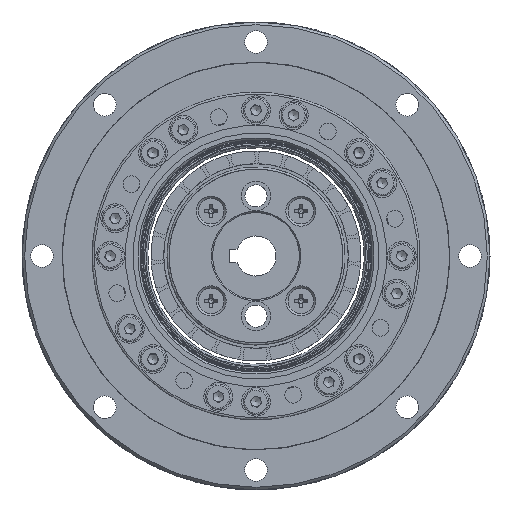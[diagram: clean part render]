
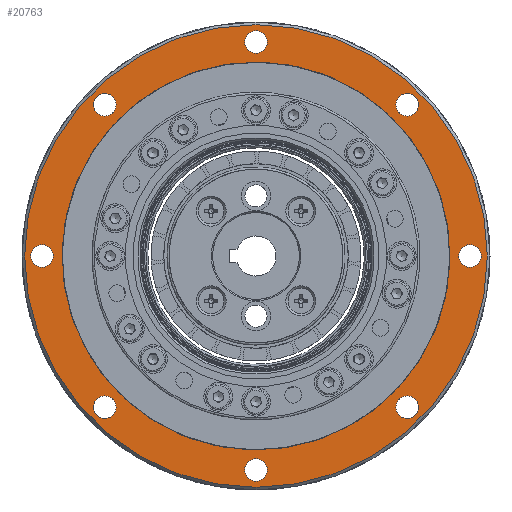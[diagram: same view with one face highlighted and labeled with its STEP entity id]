
A CAD part, left-side view. The second image highlights one B-rep face of the part: STEP entity #20763.
In plain terms, the highlighted planar face has unit normal (-1, 0, 0).
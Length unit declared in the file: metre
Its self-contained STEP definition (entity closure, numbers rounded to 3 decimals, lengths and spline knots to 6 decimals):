
#441 = CARTESIAN_POINT ( 'NONE',  ( -0.006946, 0.032, -0.0017 ) ) ;
#491 = DIRECTION ( 'NONE',  ( -1., 0., 0. ) ) ;
#904 = DIRECTION ( 'NONE',  ( 0., 0., -1. ) ) ;
#1241 = CARTESIAN_POINT ( 'NONE',  ( -0.006946, 0.022627, 0.020927 ) ) ;
#2352 = PLANE ( 'NONE',  #9427 ) ;
#2373 = EDGE_CURVE ( 'NONE', #12624, #12624, #22281, .T. ) ;
#2481 = DIRECTION ( 'NONE',  ( 0., 0., -1. ) ) ;
#3308 = DIRECTION ( 'NONE',  ( -1., 0., 0. ) ) ;
#3554 = ORIENTED_EDGE ( 'NONE', *, *, #22288, .F. ) ;
#3668 = AXIS2_PLACEMENT_3D ( 'NONE', #10719, #13132, #17512 ) ;
#4102 = EDGE_CURVE ( 'NONE', #25165, #25165, #6720, .T. ) ;
#4163 = CIRCLE ( 'NONE', #3668, 0.0017 ) ;
#4204 = DIRECTION ( 'NONE',  ( -1., 0., 0. ) ) ;
#4327 = FACE_BOUND ( 'NONE', #19361, .T. ) ;
#4349 = DIRECTION ( 'NONE',  ( 0., 0., -1. ) ) ;
#4526 = VERTEX_POINT ( 'NONE', #14040 ) ;
#4819 = ORIENTED_EDGE ( 'NONE', *, *, #8194, .F. ) ;
#5113 = EDGE_LOOP ( 'NONE', ( #3554 ) ) ;
#5501 = VERTEX_POINT ( 'NONE', #1241 ) ;
#5537 = CARTESIAN_POINT ( 'NONE',  ( -0.006946, -0.032, -0.0017 ) ) ;
#5642 = DIRECTION ( 'NONE',  ( 0., 0., -1. ) ) ;
#5705 = DIRECTION ( 'NONE',  ( 0., 0., -1. ) ) ;
#6200 = VERTEX_POINT ( 'NONE', #8455 ) ;
#6268 = CARTESIAN_POINT ( 'NONE',  ( -0.006946, -0.022627, 0.022627 ) ) ;
#6720 = CIRCLE ( 'NONE', #27963, 0.0017 ) ;
#6743 = DIRECTION ( 'NONE',  ( 1., 0., 0. ) ) ;
#6914 = DIRECTION ( 'NONE',  ( 1., 0., 0. ) ) ;
#6988 = CARTESIAN_POINT ( 'NONE',  ( -0.006946, 0., 0. ) ) ;
#7875 = EDGE_LOOP ( 'NONE', ( #16269 ) ) ;
#8160 = VERTEX_POINT ( 'NONE', #17534 ) ;
#8194 = EDGE_CURVE ( 'NONE', #8160, #8160, #18939, .T. ) ;
#8212 = DIRECTION ( 'NONE',  ( -1., 0., 0. ) ) ;
#8307 = EDGE_LOOP ( 'NONE', ( #20216 ) ) ;
#8455 = CARTESIAN_POINT ( 'NONE',  ( -0.006946, -0.022627, -0.024327 ) ) ;
#8480 = AXIS2_PLACEMENT_3D ( 'NONE', #9184, #6914, #13722 ) ;
#9015 = FACE_BOUND ( 'NONE', #28865, .T. ) ;
#9184 = CARTESIAN_POINT ( 'NONE',  ( -0.006946, 0., 0. ) ) ;
#9227 = VERTEX_POINT ( 'NONE', #27673 ) ;
#9427 = AXIS2_PLACEMENT_3D ( 'NONE', #27467, #6743, #23806 ) ;
#9760 = ORIENTED_EDGE ( 'NONE', *, *, #17972, .F. ) ;
#10129 = CARTESIAN_POINT ( 'NONE',  ( -0.006946, 0., -0.032 ) ) ;
#10719 = CARTESIAN_POINT ( 'NONE',  ( -0.006946, 0.032, 0. ) ) ;
#11277 = FACE_BOUND ( 'NONE', #8307, .T. ) ;
#11372 = DIRECTION ( 'NONE',  ( 0., 0., -1. ) ) ;
#11422 = EDGE_CURVE ( 'NONE', #9227, #9227, #25293, .T. ) ;
#11576 = FACE_OUTER_BOUND ( 'NONE', #13391, .T. ) ;
#12399 = CIRCLE ( 'NONE', #19155, 0.0017 ) ;
#12509 = VERTEX_POINT ( 'NONE', #441 ) ;
#12624 = VERTEX_POINT ( 'NONE', #5537 ) ;
#12723 = DIRECTION ( 'NONE',  ( -1., 0., 0. ) ) ;
#12961 = CARTESIAN_POINT ( 'NONE',  ( -0.006946, -0.022627, -0.022627 ) ) ;
#13132 = DIRECTION ( 'NONE',  ( -1., 0., 0. ) ) ;
#13391 = EDGE_LOOP ( 'NONE', ( #19607 ) ) ;
#13592 = AXIS2_PLACEMENT_3D ( 'NONE', #21868, #28679, #5705 ) ;
#13722 = DIRECTION ( 'NONE',  ( 0., 0., 1. ) ) ;
#14040 = CARTESIAN_POINT ( 'NONE',  ( -0.006946, 0., -0.0337 ) ) ;
#14240 = DIRECTION ( 'NONE',  ( 0., 0., 1. ) ) ;
#14420 = EDGE_LOOP ( 'NONE', ( #9760 ) ) ;
#14930 = CARTESIAN_POINT ( 'NONE',  ( -0.006946, -0.022627, 0.020927 ) ) ;
#15421 = CARTESIAN_POINT ( 'NONE',  ( -0.006946, 0., 0.0346 ) ) ;
#16269 = ORIENTED_EDGE ( 'NONE', *, *, #21419, .F. ) ;
#16333 = ORIENTED_EDGE ( 'NONE', *, *, #2373, .F. ) ;
#16826 = CARTESIAN_POINT ( 'NONE',  ( -0.006946, 0., 0.032 ) ) ;
#17306 = CIRCLE ( 'NONE', #21652, 0.0017 ) ;
#17512 = DIRECTION ( 'NONE',  ( 0., 0., -1. ) ) ;
#17534 = CARTESIAN_POINT ( 'NONE',  ( -0.006946, 0., 0.029 ) ) ;
#17929 = FACE_BOUND ( 'NONE', #28875, .T. ) ;
#17972 = EDGE_CURVE ( 'NONE', #6200, #6200, #23464, .T. ) ;
#18227 = EDGE_CURVE ( 'NONE', #26909, #26909, #19119, .T. ) ;
#18233 = FACE_BOUND ( 'NONE', #5113, .T. ) ;
#18462 = AXIS2_PLACEMENT_3D ( 'NONE', #6988, #491, #14240 ) ;
#18939 = CIRCLE ( 'NONE', #18462, 0.029 ) ;
#19119 = CIRCLE ( 'NONE', #8480, 0.0346 ) ;
#19155 = AXIS2_PLACEMENT_3D ( 'NONE', #6268, #8212, #26664 ) ;
#19361 = EDGE_LOOP ( 'NONE', ( #29044 ) ) ;
#19607 = ORIENTED_EDGE ( 'NONE', *, *, #18227, .F. ) ;
#20140 = EDGE_CURVE ( 'NONE', #4526, #4526, #26754, .T. ) ;
#20216 = ORIENTED_EDGE ( 'NONE', *, *, #27817, .F. ) ;
#20501 = FACE_BOUND ( 'NONE', #7875, .T. ) ;
#20763 = ADVANCED_FACE ( 'NONE', ( #17929, #11576, #18233, #4327, #11277, #20501, #23072, #22625, #29734, #9015 ), #2352, .F. ) ;
#21419 = EDGE_CURVE ( 'NONE', #12509, #12509, #4163, .T. ) ;
#21539 = AXIS2_PLACEMENT_3D ( 'NONE', #12961, #4204, #4349 ) ;
#21652 = AXIS2_PLACEMENT_3D ( 'NONE', #27735, #29704, #2481 ) ;
#21868 = CARTESIAN_POINT ( 'NONE',  ( -0.006946, -0.032, 0. ) ) ;
#22281 = CIRCLE ( 'NONE', #13592, 0.0017 ) ;
#22288 = EDGE_CURVE ( 'NONE', #23860, #23860, #12399, .T. ) ;
#22462 = CARTESIAN_POINT ( 'NONE',  ( -0.006946, 0., 0.0303 ) ) ;
#22625 = FACE_BOUND ( 'NONE', #23239, .T. ) ;
#22713 = CARTESIAN_POINT ( 'NONE',  ( -0.006946, 0.022627, -0.022627 ) ) ;
#22865 = DIRECTION ( 'NONE',  ( -1., 0., 0. ) ) ;
#23072 = FACE_BOUND ( 'NONE', #28447, .T. ) ;
#23239 = EDGE_LOOP ( 'NONE', ( #29447 ) ) ;
#23464 = CIRCLE ( 'NONE', #21539, 0.0017 ) ;
#23806 = DIRECTION ( 'NONE',  ( 0., 0., 1. ) ) ;
#23860 = VERTEX_POINT ( 'NONE', #14930 ) ;
#24357 = AXIS2_PLACEMENT_3D ( 'NONE', #10129, #3308, #904 ) ;
#25165 = VERTEX_POINT ( 'NONE', #22462 ) ;
#25293 = CIRCLE ( 'NONE', #26732, 0.0017 ) ;
#26664 = DIRECTION ( 'NONE',  ( 0., 0., -1. ) ) ;
#26732 = AXIS2_PLACEMENT_3D ( 'NONE', #22713, #22865, #11372 ) ;
#26754 = CIRCLE ( 'NONE', #24357, 0.0017 ) ;
#26761 = ORIENTED_EDGE ( 'NONE', *, *, #11422, .F. ) ;
#26909 = VERTEX_POINT ( 'NONE', #15421 ) ;
#27467 = CARTESIAN_POINT ( 'NONE',  ( -0.006946, -0.029, 0. ) ) ;
#27673 = CARTESIAN_POINT ( 'NONE',  ( -0.006946, 0.022627, -0.024327 ) ) ;
#27735 = CARTESIAN_POINT ( 'NONE',  ( -0.006946, 0.022627, 0.022627 ) ) ;
#27817 = EDGE_CURVE ( 'NONE', #5501, #5501, #17306, .T. ) ;
#27963 = AXIS2_PLACEMENT_3D ( 'NONE', #16826, #12723, #5642 ) ;
#28447 = EDGE_LOOP ( 'NONE', ( #26761 ) ) ;
#28679 = DIRECTION ( 'NONE',  ( -1., 0., 0. ) ) ;
#28865 = EDGE_LOOP ( 'NONE', ( #16333 ) ) ;
#28875 = EDGE_LOOP ( 'NONE', ( #4819 ) ) ;
#29044 = ORIENTED_EDGE ( 'NONE', *, *, #4102, .F. ) ;
#29447 = ORIENTED_EDGE ( 'NONE', *, *, #20140, .F. ) ;
#29704 = DIRECTION ( 'NONE',  ( -1., 0., 0. ) ) ;
#29734 = FACE_BOUND ( 'NONE', #14420, .T. ) ;
